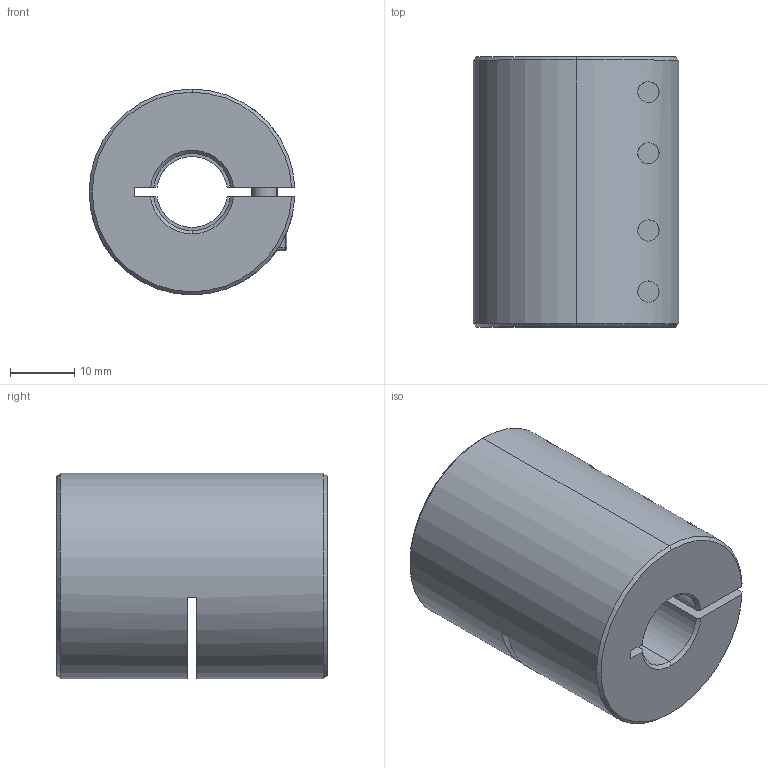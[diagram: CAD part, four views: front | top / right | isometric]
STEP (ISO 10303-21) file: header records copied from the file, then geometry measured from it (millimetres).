
FILE_DESCRIPTION (( 'STEP AP203' ), '1' );
FILE_NAME ('LL-B-D32L42-11-12.STEP', '2021-11-05T07:49:33', ( '' ), ( '' ), 'SwSTEP 2.0', 'SolidWorks 2018', '' );
FILE_SCHEMA (( 'CONFIG_CONTROL_DESIGN' ));
Length unit declared in the file: millimetre
Products named in the file (1): LL-B-D32L42-11-12
Bounding box: 31.98 x 42 x 32 mm (x, y, z)
Volume: 27161.1 mm3; surface area: 10306.8 mm2
Topology: 1 solids, 1 shells, 193 faces, 492 edges, 309 vertices
Faces by surface type: plane 88, cylinder 77, cone 20, torus 8
Entity records: 6376 total; most frequent: CARTESIAN_POINT 1559, DIRECTION 1037, ORIENTED_EDGE 968, EDGE_CURVE 484, AXIS2_PLACEMENT_3D 403, VERTEX_POINT 309, LINE 231, VECTOR 231
